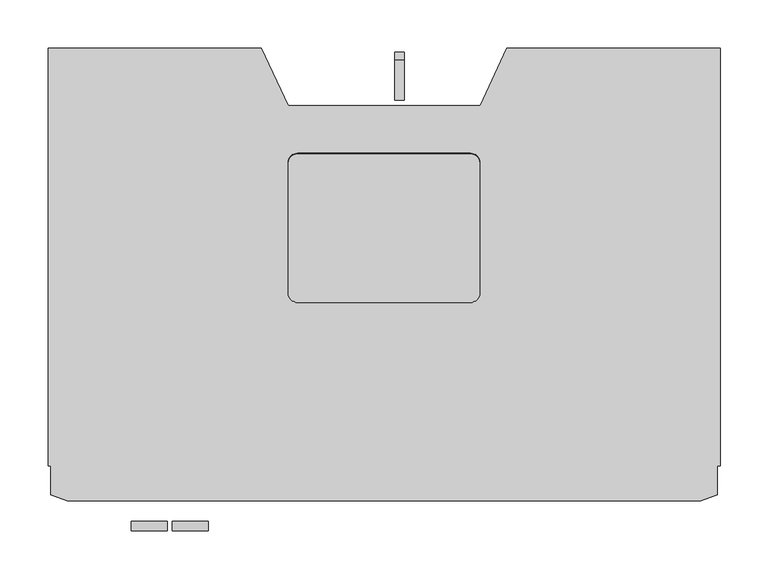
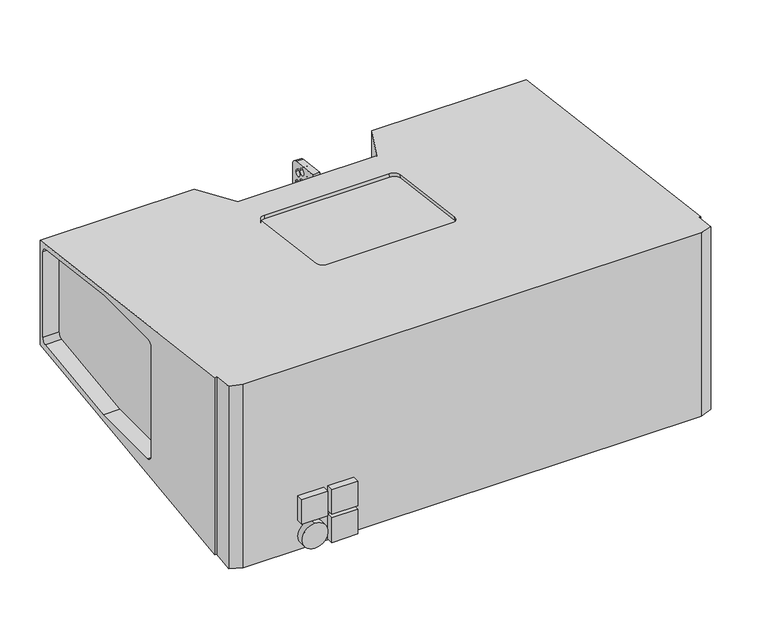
"""IFC4 building model written with IfcOpenShell, lengths in millimetres: proxy geometry, d&b SL-Series XSLi : XSLi12."""

from ifc_helpers import new_model, si_unit, point, frame, frame_2d, origin, place, context, project, spatial, polyline, circle_curve, trimmed, segment, composite_curve, outline, extrude, source, transform, mapped, element, save
from ifc_brep_helpers import plane_surface, revolved_surface, advanced_brep


def communication_devices_117acdfe(model_context):
    return source(origin(), model_context, "Body", "SolidModel", [
        advanced_brep(
        [(170.2405547, -330.1244027, 146.1842209), (170.2405547, -330.1244027, -133.052445), (829.7594453, -330.1244027, -133.052445), (829.7594453, -330.1244027, 146.1842209), (153.0, -323.849354, -132.2541577), (153.0, -323.849354, 145.3859339), (153.0, -294.0371274, 141.5933401), (153.0, -294.0371274, -128.4615623), (847.0, -323.849354, -132.2541577), (847.0, -323.849354, 145.3859339), (847.0, -294.0371274, -128.4615623), (847.0, -294.0371274, 141.5933401), (850.0, -294.0371274, 141.5933401), (850.0, 141.8755973, 86.1382428), (627.9784595, 141.8755973, 86.1382428), (600.0, 81.8755973, 93.7712061), (400.0, 81.8755973, 93.7712061), (372.0215405, 141.8755973, 86.1382428), (150.0, 141.8755973, 86.1382428), (150.0, -294.0371274, 141.5933401), (599.8603516, -113.5250804, 118.6293095), (589.8603516, -123.4451299, 119.8912991), (410.1396484, -123.4451299, 119.8912991), (400.1396484, -113.5250804, 118.6293095), (400.1396484, 22.2372063, 101.3581669), (410.1396484, 32.1572558, 100.0961774), (589.8603516, 32.1572558, 100.0961774), (599.8603516, 22.2372063, 101.3581669), (150.0, -294.0371274, -128.4615623), (150.0, 141.8755973, -73.0064423), (188.4702084, 141.8755973, -73.0064423), (184.5040319, 103.3755973, -77.9042624), (348.3071546, 103.3755973, -77.9042624), (348.1361189, 141.8755973, -73.0064423), (372.0215405, 141.8755973, -73.0064423), (400.0, 81.8755973, -80.6394088), (600.0, 81.8755973, -80.6394088), (627.9784595, 141.8755973, -73.0064423), (651.8638811, 141.8755973, -73.0064423), (651.6928454, 103.3755973, -77.9042624), (815.4959681, 103.3755973, -77.9042624), (811.5297916, 141.8755973, -73.0064423), (850.0, 141.8755973, -73.0064423), (850.0, -294.0371274, -128.4615623), (797.6572273, 141.8755973, -55.8752521), (782.1143081, 141.8755973, -48.46166), (662.3778915, 141.8755973, -48.46166), (652.3839833, 141.8755973, -58.112665), (787.6572273, 141.8755973, -15.0), (797.6572273, 141.8755973, -5.0), (797.6572273, 141.8755973, 40.0), (787.6572273, 141.8755973, 50.0), (670.0, 141.8755973, 50.0), (660.0, 141.8755973, 40.0), (660.0, 141.8755973, -5.0), (670.0, 141.8755973, -15.0), (347.6160167, 141.8755973, -58.112665), (337.6221085, 141.8755973, -48.46166), (217.8856919, 141.8755973, -48.46166), (202.3427727, 141.8755973, -55.8752521), (202.3427727, 141.8755973, 40.0), (202.3427727, 141.8755973, -5.0), (212.3427727, 141.8755973, -15.0), (330.0, 141.8755973, -15.0), (340.0, 141.8755973, -5.0), (340.0, 141.8755973, 40.0), (330.0, 141.8755973, 50.0), (212.3427727, 141.8755973, 50.0), (826.4019238, -16.422895, 99.0485291), (826.4019238, -126.8744027, 99.0485291), (826.4019238, -134.3744027, 91.5485291), (826.4019238, -134.3744027, -75.4514709), (826.4019238, -126.8744027, -82.9514709), (826.4019238, -16.4238546, -82.9514709), (826.4019238, 128.1220886, -64.5629235), (826.4019238, 134.6755973, -57.1228863), (826.4019238, 134.6755973, 73.2200667), (826.4019238, 128.1220886, 80.6601039), (850.0, -16.422895, 99.0485291), (850.0, 128.1220886, 80.6601039), (850.0, 134.6755973, 73.2200667), (850.0, 134.6755973, -57.1228863), (850.0, 128.1220886, -64.5629235), (850.0, -16.4238546, -82.9514709), (850.0, -126.8744027, -82.9514709), (850.0, -134.3744027, -75.4514709), (850.0, -134.3744027, 91.5485291), (850.0, -126.8744027, 99.0485291), (173.5980762, -126.8744027, 99.0485291), (173.5980762, -16.422895, 99.0485291), (173.5980762, 128.1220886, 80.6601039), (173.5980762, 134.6755973, 73.2200667), (173.5980762, 134.6755973, -57.1228863), (173.5980762, 128.1220886, -64.5629235), (173.5980762, -16.4238546, -82.9514709), (173.5980762, -126.8744027, -82.9514709), (173.5980762, -134.3744027, -75.4514709), (173.5980762, -134.3744027, 91.5485291), (150.0, -16.422895, 99.0485291), (150.0, -126.8744027, 99.0485291), (150.0, -134.3744027, 91.5485291), (150.0, -134.3744027, -75.4514709), (150.0, -126.8744027, -82.9514709), (150.0, -16.4238546, -82.9514709), (150.0, 128.1220886, -64.5629235), (150.0, 134.6755973, -57.1228863), (150.0, 134.6755973, 73.2200667), (150.0, 128.1220886, 80.6601039), (337.6221085, 103.3755973, -48.46166), (347.6160167, 103.3755973, -58.112665), (202.3427727, 103.3755973, -55.8752521), (217.8856919, 103.3755973, -48.46166), (662.3778915, 103.3755973, -48.46166), (782.1143081, 103.3755973, -48.46166), (797.6572273, 103.3755973, -55.8752521), (652.3839833, 103.3755973, -58.112665), (589.8603516, -124.0761247, 114.9312743), (599.8603516, -114.1560752, 113.6692848), (599.8603516, 21.6062115, 96.3981422), (589.8603516, 31.526261, 95.1361526), (410.1396484, 31.526261, 95.1361526), (400.1396484, 21.6062115, 96.3981422), (400.1396484, -114.1560752, 113.6692848), (410.1396484, -124.0761247, 114.9312743), (797.6572273, 136.8755973, -5.0), (787.6572273, 136.8755973, -15.0), (670.0, 136.8755973, -15.0), (660.0, 136.8755973, -5.0), (660.0, 136.8755973, 40.0), (670.0, 136.8755973, 50.0), (787.6572273, 136.8755973, 50.0), (797.6572273, 136.8755973, 40.0), (202.3427727, 136.8755973, -5.0), (202.3427727, 136.8755973, 40.0), (212.3427727, 136.8755973, 50.0), (330.0, 136.8755973, 50.0), (340.0, 136.8755973, 40.0), (340.0, 136.8755973, -5.0), (330.0, 136.8755973, -15.0), (212.3427727, 136.8755973, -15.0)],
        [
            (0, 1),
            (1, 2),
            (2, 3),
            (3, 0),
            (4, 5),
            (5, 6),
            (6, 7),
            (7, 4),
            (0, 5),
            (4, 1),
            (2, 8),
            (8, 9),
            (9, 3),
            (8, 10),
            (10, 11),
            (11, 9),
            (11, 12),
            (12, 13),
            (13, 14),
            (14, 15),
            (15, 16),
            (16, 17),
            (17, 18),
            (18, 19),
            (19, 6),
            (20, 21, circle_curve(frame((589.8603516, -113.5250804, 118.6293095), z_axis=(0.0, -0.12619895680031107, -0.9920049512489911), x_axis=(0.0, 0.9920049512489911, -0.12619895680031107)), 10.0)),
            (21, 22),
            (22, 23, circle_curve(frame((410.1396484, -113.5250804, 118.6293095), z_axis=(0.0, -0.12619895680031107, -0.9920049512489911), x_axis=(0.0, 0.9920049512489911, -0.12619895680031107)), 10.0)),
            (23, 24),
            (24, 25, circle_curve(frame((410.1396484, 22.2372063, 101.3581669), z_axis=(0.0, -0.12619895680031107, -0.9920049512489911), x_axis=(0.0, 0.9920049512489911, -0.12619895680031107)), 10.0)),
            (25, 26),
            (26, 27, circle_curve(frame((589.8603516, 22.2372063, 101.3581669), z_axis=(0.0, -0.12619895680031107, -0.9920049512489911), x_axis=(0.0, 0.9920049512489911, -0.12619895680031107)), 10.0)),
            (27, 20),
            (7, 28),
            (28, 29),
            (29, 30),
            (30, 31),
            (31, 32),
            (32, 33),
            (33, 34),
            (34, 35),
            (35, 36),
            (36, 37),
            (37, 38),
            (38, 39),
            (39, 40),
            (40, 41),
            (41, 42),
            (42, 43),
            (43, 10),
            (37, 14),
            (13, 42),
            (41, 44),
            (44, 45, circle_curve(frame((782.1143081, 141.8755973, -68.46166), z_axis=(0.0, -1.0, 0.0), x_axis=(-1.0, 0.0, 0.0)), 20.0)),
            (45, 46),
            (46, 47, circle_curve(frame((662.3778915, 141.8755973, -58.46166), z_axis=(0.0, -1.0, 0.0), x_axis=(-1.0, 0.0, 0.0)), 10.0)),
            (47, 38),
            (48, 49, circle_curve(frame((787.6572273, 141.8755973, -5.0), z_axis=(0.0, -1.0, 0.0), x_axis=(0.0, 0.0, 1.0)), 10.0)),
            (49, 50),
            (50, 51, circle_curve(frame((787.6572273, 141.8755973, 40.0), z_axis=(0.0, -1.0, 0.0), x_axis=(0.0, 0.0, 1.0)), 10.0)),
            (51, 52),
            (52, 53, circle_curve(frame((670.0, 141.8755973, 40.0), z_axis=(0.0, -1.0, 0.0), x_axis=(0.0, 0.0, 1.0)), 10.0)),
            (53, 54),
            (54, 55, circle_curve(frame((670.0, 141.8755973, -5.0), z_axis=(0.0, -1.0, 0.0), x_axis=(0.0, 0.0, 1.0)), 10.0)),
            (55, 48),
            (17, 34),
            (33, 56),
            (56, 57, circle_curve(frame((337.6221085, 141.8755973, -58.46166), z_axis=(0.0, -1.0, 0.0), x_axis=(-1.0, 0.0, 0.0)), 10.0)),
            (57, 58),
            (58, 59, circle_curve(frame((217.8856919, 141.8755973, -68.46166), z_axis=(0.0, -1.0, 0.0), x_axis=(-1.0, 0.0, 0.0)), 20.0)),
            (59, 30),
            (29, 18),
            (60, 61),
            (61, 62, circle_curve(frame((212.3427727, 141.8755973, -5.0), z_axis=(0.0, -1.0, 0.0), x_axis=(0.0, 0.0, 1.0)), 10.0)),
            (62, 63),
            (63, 64, circle_curve(frame((330.0, 141.8755973, -5.0), z_axis=(0.0, -1.0, 0.0), x_axis=(0.0, 0.0, 1.0)), 10.0)),
            (64, 65),
            (65, 66, circle_curve(frame((330.0, 141.8755973, 40.0), z_axis=(0.0, -1.0, 0.0), x_axis=(0.0, 0.0, 1.0)), 10.0)),
            (66, 67),
            (67, 60, circle_curve(frame((212.3427727, 141.8755973, 40.0), z_axis=(0.0, -1.0, 0.0), x_axis=(0.0, 0.0, 1.0)), 10.0)),
            (68, 69),
            (69, 70, circle_curve(frame((826.4019238, -126.8744027, 91.5485291), z_axis=(1.0, 0.0, 0.0), x_axis=(0.0, 1.0, 0.0)), 7.5)),
            (70, 71),
            (71, 72, circle_curve(frame((826.4019238, -126.8744027, -75.4514709), z_axis=(1.0, 0.0, 0.0), x_axis=(0.0, 1.0, 0.0)), 7.5)),
            (72, 73),
            (73, 74),
            (74, 75, circle_curve(frame((826.4019238, 127.1755973, -57.1228863), z_axis=(1.0, 0.0, 0.0), x_axis=(0.0, 1.0, 0.0)), 7.5)),
            (75, 76),
            (76, 77, circle_curve(frame((826.4019238, 127.1755973, 73.2200667), z_axis=(1.0, 0.0, 0.0), x_axis=(0.0, 1.0, 0.0)), 7.5)),
            (77, 68),
            (35, 16),
            (15, 36),
            (12, 43),
            (78, 79),
            (79, 80, circle_curve(frame((850.0, 127.1755973, 73.2200667), z_axis=(-1.0, 0.0, 0.0), x_axis=(0.0, 1.0, 0.0)), 7.5)),
            (80, 81),
            (81, 82, circle_curve(frame((850.0, 127.1755973, -57.1228863), z_axis=(-1.0, 0.0, 0.0), x_axis=(0.0, 1.0, 0.0)), 7.5)),
            (82, 83),
            (83, 84),
            (84, 85, circle_curve(frame((850.0, -126.8744027, -75.4514709), z_axis=(-1.0, 0.0, 0.0), x_axis=(0.0, 1.0, 0.0)), 7.5)),
            (85, 86),
            (86, 87, circle_curve(frame((850.0, -126.8744027, 91.5485291), z_axis=(-1.0, 0.0, 0.0), x_axis=(0.0, 1.0, 0.0)), 7.5)),
            (87, 78),
            (87, 69),
            (68, 78),
            (86, 70),
            (85, 71),
            (84, 72),
            (83, 73),
            (82, 74),
            (80, 76),
            (75, 81),
            (77, 79),
            (88, 89),
            (89, 90),
            (90, 91, circle_curve(frame((173.5980762, 127.1755973, 73.2200667), z_axis=(-1.0, 0.0, 0.0), x_axis=(0.0, 1.0, 0.0)), 7.5)),
            (91, 92),
            (92, 93, circle_curve(frame((173.5980762, 127.1755973, -57.1228863), z_axis=(-1.0, 0.0, 0.0), x_axis=(0.0, 1.0, 0.0)), 7.5)),
            (93, 94),
            (94, 95),
            (95, 96, circle_curve(frame((173.5980762, -126.8744027, -75.4514709), z_axis=(-1.0, 0.0, 0.0), x_axis=(0.0, 1.0, 0.0)), 7.5)),
            (96, 97),
            (97, 88, circle_curve(frame((173.5980762, -126.8744027, 91.5485291), z_axis=(-1.0, 0.0, 0.0), x_axis=(0.0, 1.0, 0.0)), 7.5)),
            (28, 19),
            (98, 99),
            (99, 100, circle_curve(frame((150.0, -126.8744027, 91.5485291), z_axis=(1.0, 0.0, 0.0), x_axis=(0.0, 1.0, 0.0)), 7.5)),
            (100, 101),
            (101, 102, circle_curve(frame((150.0, -126.8744027, -75.4514709), z_axis=(1.0, 0.0, 0.0), x_axis=(0.0, 1.0, 0.0)), 7.5)),
            (102, 103),
            (103, 104),
            (104, 105, circle_curve(frame((150.0, 127.1755973, -57.1228863), z_axis=(1.0, 0.0, 0.0), x_axis=(0.0, 1.0, 0.0)), 7.5)),
            (105, 106),
            (106, 107, circle_curve(frame((150.0, 127.1755973, 73.2200667), z_axis=(1.0, 0.0, 0.0), x_axis=(0.0, 1.0, 0.0)), 7.5)),
            (107, 98),
            (98, 89),
            (88, 99),
            (97, 100),
            (96, 101),
            (95, 102),
            (94, 103),
            (93, 104),
            (105, 92),
            (91, 106),
            (107, 90),
            (108, 109, circle_curve(frame((337.6221085, 103.3755973, -58.46166), z_axis=(0.0, 1.0, 0.0), x_axis=(-1.0, 0.0, 0.0)), 10.0)),
            (109, 32),
            (31, 110),
            (110, 111, circle_curve(frame((217.8856919, 103.3755973, -68.46166), z_axis=(0.0, 1.0, 0.0), x_axis=(-1.0, 0.0, 0.0)), 20.0)),
            (111, 108),
            (112, 113),
            (113, 114, circle_curve(frame((782.1143081, 103.3755973, -68.46166), z_axis=(0.0, 1.0, 0.0), x_axis=(-1.0, 0.0, 0.0)), 20.0)),
            (114, 40),
            (39, 115),
            (115, 112, circle_curve(frame((662.3778915, 103.3755973, -58.46166), z_axis=(0.0, 1.0, 0.0), x_axis=(-1.0, 0.0, 0.0)), 10.0)),
            (108, 57),
            (56, 109),
            (59, 110),
            (58, 111),
            (112, 46),
            (45, 113),
            (44, 114),
            (47, 115),
            (116, 117, circle_curve(frame((589.8603516, -114.1560752, 113.6692848), z_axis=(0.0, 0.12619895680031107, 0.9920049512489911), x_axis=(0.0, 0.9920049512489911, -0.12619895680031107)), 10.0)),
            (117, 118),
            (118, 119, circle_curve(frame((589.8603516, 21.6062115, 96.3981422), z_axis=(0.0, 0.12619895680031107, 0.9920049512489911), x_axis=(0.0, 0.9920049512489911, -0.12619895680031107)), 10.0)),
            (119, 120),
            (120, 121, circle_curve(frame((410.1396484, 21.6062115, 96.3981422), z_axis=(0.0, 0.12619895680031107, 0.9920049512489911), x_axis=(0.0, 0.9920049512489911, -0.12619895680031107)), 10.0)),
            (121, 122),
            (122, 123, circle_curve(frame((410.1396484, -114.1560752, 113.6692848), z_axis=(0.0, 0.12619895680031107, 0.9920049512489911), x_axis=(0.0, 0.9920049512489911, -0.12619895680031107)), 10.0)),
            (123, 116),
            (116, 21),
            (20, 117),
            (27, 118),
            (26, 119),
            (25, 120),
            (24, 121),
            (23, 122),
            (22, 123),
            (124, 125, circle_curve(frame((787.6572273, 136.8755973, -5.0), z_axis=(0.0, 1.0, 0.0), x_axis=(0.0, 0.0, 1.0)), 10.0)),
            (125, 126),
            (126, 127, circle_curve(frame((670.0, 136.8755973, -5.0), z_axis=(0.0, 1.0, 0.0), x_axis=(0.0, 0.0, 1.0)), 10.0)),
            (127, 128),
            (128, 129, circle_curve(frame((670.0, 136.8755973, 40.0), z_axis=(0.0, 1.0, 0.0), x_axis=(0.0, 0.0, 1.0)), 10.0)),
            (129, 130),
            (130, 131, circle_curve(frame((787.6572273, 136.8755973, 40.0), z_axis=(0.0, 1.0, 0.0), x_axis=(0.0, 0.0, 1.0)), 10.0)),
            (131, 124),
            (132, 133),
            (133, 134, circle_curve(frame((212.3427727, 136.8755973, 40.0), z_axis=(0.0, 1.0, 0.0), x_axis=(0.0, 0.0, 1.0)), 10.0)),
            (134, 135),
            (135, 136, circle_curve(frame((330.0, 136.8755973, 40.0), z_axis=(0.0, 1.0, 0.0), x_axis=(0.0, 0.0, 1.0)), 10.0)),
            (136, 137),
            (137, 138, circle_curve(frame((330.0, 136.8755973, -5.0), z_axis=(0.0, 1.0, 0.0), x_axis=(0.0, 0.0, 1.0)), 10.0)),
            (138, 139),
            (139, 132, circle_curve(frame((212.3427727, 136.8755973, -5.0), z_axis=(0.0, 1.0, 0.0), x_axis=(0.0, 0.0, 1.0)), 10.0)),
            (124, 49),
            (48, 125),
            (55, 126),
            (54, 127),
            (53, 128),
            (52, 129),
            (51, 130),
            (50, 131),
            (132, 61),
            (60, 133),
            (67, 134),
            (66, 135),
            (65, 136),
            (64, 137),
            (63, 138),
            (62, 139),
        ],
        [
            plane_surface(frame((170.2405547, -330.1244027, 200.0), z_axis=(0.0, -1.0, 0.0), x_axis=(0.0, 0.0, -1.0))),
            plane_surface(frame((153.0, -294.0371274, 200.0), z_axis=(-1.0, 0.0, 0.0), x_axis=(0.0, 0.0, -1.0))),
            plane_surface(frame((153.0, -323.849354, 200.0), z_axis=(-0.34202014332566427, -0.93969262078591, 0.0), x_axis=(0.0, 0.0, -1.0))),
            plane_surface(frame((829.7594453, -330.1244027, 200.0), z_axis=(0.3420201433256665, -0.9396926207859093, 0.0), x_axis=(0.0, 0.0, -1.0))),
            plane_surface(frame((847.0, -323.849354, 200.0), z_axis=(1.0, 0.0, 0.0), x_axis=(0.0, 0.0, -1.0))),
            plane_surface(frame((900.0, -397.1791753, 154.7146646), z_axis=(0.0, 0.12619895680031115, 0.9920049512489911), x_axis=(-1.0, 0.0, 0.0))),
            plane_surface(frame((900.0, -259.9156739, -124.1207638), z_axis=(0.0, 0.12619900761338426, -0.9920049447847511), x_axis=(-1.0, 0.0, 0.0))),
            plane_surface(frame((780.0, 141.8755973, -73.0064423), z_axis=(0.0, 1.0, 0.0), x_axis=(-1.0, 0.0, 0.0))),
            plane_surface(frame((826.4019238, -294.0371274, 191.9850007), z_axis=(1.0, 0.0, 0.0), x_axis=(0.0, 0.0, -1.0))),
            plane_surface(frame((400.0, 81.8755973, 250.0), z_axis=(0.0, 1.0, 0.0), x_axis=(0.0, 0.0, -1.0))),
            plane_surface(frame((600.0, 81.8755973, 250.0), z_axis=(-0.9063077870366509, 0.42261826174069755, 0.0), x_axis=(0.0, 0.0, -1.0))),
            plane_surface(frame((323.4204404, 246.1009928, 250.0), z_axis=(0.906307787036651, 0.4226182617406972, 0.0), x_axis=(0.0, 0.0, -1.0))),
            plane_surface(frame((850.0, -294.0371274, 191.9850007), z_axis=(1.0, 0.0, 0.0), x_axis=(0.0, 0.0, -1.0))),
            plane_surface(frame((826.4019238, -294.0371274, -128.4615623), z_axis=(0.0, -1.0, 0.0), x_axis=(1.0, 0.0, 0.0))),
            plane_surface(frame((826.4019238, -16.422895, 99.0485291), z_axis=(0.0, 0.0, -1.0), x_axis=(1.0, 0.0, 0.0))),
            revolved_surface(polyline([(850.0, -119.3744027, 91.5485291), (826.4019238, -119.3744027, 91.5485291)]), (500.0, -126.8744027, 91.5485291), (1.0, 0.0, 0.0)),
            plane_surface(frame((826.4019238, -134.3744027, 91.5485291), z_axis=(0.0, 1.0, 0.0), x_axis=(1.0, 0.0, 0.0))),
            revolved_surface(polyline([(850.0, -119.3744027, -75.4514709), (826.4019238, -119.3744027, -75.4514709)]), (500.0, -126.8744027, -75.4514709), (1.0, 0.0, 0.0)),
            plane_surface(frame((826.4019238, -126.8744027, -82.9514709), z_axis=(0.0, 0.0, 1.0), x_axis=(1.0, 0.0, 0.0))),
            plane_surface(frame((826.4019238, -16.4238546, -82.9514709), z_axis=(0.0, -0.12619883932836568, 0.9920049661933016), x_axis=(1.0, 0.0, 0.0))),
            plane_surface(frame((826.4019238, 134.6755973, -57.1228863), z_axis=(0.0, -1.0, 0.0), x_axis=(1.0, 0.0, 0.0))),
            plane_surface(frame((826.4019238, 128.1220886, 80.6601039), z_axis=(0.0, -0.1261988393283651, -0.9920049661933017), x_axis=(1.0, 0.0, 0.0))),
            revolved_surface(polyline([(850.0, 134.6755973, -57.1228863), (826.4019238, 134.6755973, -57.1228863)]), (500.0, 127.1755973, -57.1228863), (1.0, 0.0, 0.0)),
            revolved_surface(polyline([(850.0, 134.6755973, 73.2200667), (826.4019238, 134.6755973, 73.2200667)]), (500.0, 127.1755973, 73.2200667), (1.0, 0.0, 0.0)),
            plane_surface(frame((173.5980762, -540.9167318, -159.8686246), z_axis=(-1.0, 0.0, 0.0), x_axis=(0.0, -0.9920049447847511, -0.1261990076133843))),
            plane_surface(frame((150.0, -540.9167318, -159.8686246), z_axis=(-1.0000000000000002, 0.0, 0.0), x_axis=(0.0, -0.9920049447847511, -0.1261990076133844))),
            plane_surface(frame((173.5980762, -294.0371274, 141.5933401), z_axis=(0.0, -1.0, 0.0), x_axis=(-1.0, 0.0, 0.0))),
            plane_surface(frame((173.5980762, -126.8744027, 99.0485291), z_axis=(0.0, 0.0, -1.0), x_axis=(-1.0, 0.0, 0.0))),
            revolved_surface(polyline([(150.0, -119.3744027, 91.5485291), (173.59807620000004, -119.3744027, 91.5485291)]), (500.0, -126.8744027, 91.5485291), (-1.0, 0.0, 0.0)),
            plane_surface(frame((173.5980762, -134.3744027, -75.4514709), z_axis=(0.0, 1.0, 0.0), x_axis=(-1.0, 0.0, 0.0))),
            revolved_surface(polyline([(150.0, -119.3744027, -75.4514709), (173.59807620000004, -119.3744027, -75.4514709)]), (500.0, -126.8744027, -75.4514709), (-1.0, 0.0, 0.0)),
            plane_surface(frame((173.5980762, -16.4238546, -82.9514709), z_axis=(0.0, 0.0, 1.0), x_axis=(-1.0, 0.0, 0.0))),
            plane_surface(frame((173.5980762, 128.1220886, -64.5629235), z_axis=(0.0, -0.1261988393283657, 0.9920049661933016), x_axis=(-1.0, 0.0, 0.0))),
            plane_surface(frame((173.5980762, 134.6755973, 73.2200667), z_axis=(0.0, -1.0, 0.0), x_axis=(-1.0, 0.0, 0.0))),
            plane_surface(frame((173.5980762, -16.422895, 99.0485291), z_axis=(0.0, -0.1261988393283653, -0.9920049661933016), x_axis=(-1.0, 0.0, 0.0))),
            revolved_surface(polyline([(150.0, 134.6755973, 73.2200667), (173.59807620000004, 134.6755973, 73.2200667)]), (500.0, 127.1755973, 73.2200667), (-1.0, 0.0, 0.0)),
            revolved_surface(polyline([(150.0, 134.6755973, -57.1228863), (173.59807620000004, 134.6755973, -57.1228863)]), (500.0, 127.1755973, -57.1228863), (-1.0, 0.0, 0.0)),
            plane_surface(frame((327.6221085, 103.3755973, -58.46166), z_axis=(0.0, 1.0, 0.0), x_axis=(0.0, 0.0, -1.0))),
            revolved_surface(polyline([(327.6221085, 141.8755973, -58.46166), (327.6221085, 103.3755973, -58.46166)]), (337.6221085, 103.3755973, -58.46166), (0.0, 1.0, 0.0)),
            plane_surface(frame((347.6160167, 141.8755973, -58.112665), z_axis=(-0.9993908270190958, 0.0, -0.03489949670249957), x_axis=(0.0, -1.0, 0.0))),
            plane_surface(frame((179.1870516, 141.8755973, -84.4701863), z_axis=(0.7771459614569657, 0.0, -0.629320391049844), x_axis=(0.0, -1.0, 0.0))),
            revolved_surface(polyline([(197.8856919, 141.8755973, -68.46166), (197.8856919, 103.3755973, -68.46166)]), (217.8856919, 103.3755973, -68.46166), (0.0, 1.0, 0.0)),
            plane_surface(frame((217.8856919, 141.8755973, -48.46166), z_axis=(0.0, 0.0, -1.0), x_axis=(0.0, -1.0, 0.0))),
            plane_surface(frame((662.3778915, 141.8755973, -48.46166), z_axis=(0.0, 0.0, -1.0), x_axis=(0.0, -1.0, 0.0))),
            revolved_surface(polyline([(762.1143081, 141.8755973, -68.46166), (762.1143081, 103.3755973, -68.46166)]), (782.1143081, 150.1255973, -68.46166), (0.0, 1.0, 0.0)),
            plane_surface(frame((797.6572273, 141.8755973, -55.8752521), z_axis=(-0.7771459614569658, 0.0, -0.6293203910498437), x_axis=(0.0, -1.0, 0.0))),
            plane_surface(frame((651.4635583, 141.8755973, -84.4701863), z_axis=(0.9993908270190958, 0.0, -0.034899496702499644), x_axis=(0.0, -1.0, 0.0))),
            revolved_surface(polyline([(652.3778915, 141.8755973, -58.46166), (652.3778915, 103.3755973, -58.46166)]), (662.3778915, 150.1255973, -58.46166), (0.0, 1.0, 0.0)),
            plane_surface(frame((589.8603516, -104.2360257, 112.4072952), z_axis=(0.0, 0.12619895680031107, 0.9920049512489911), x_axis=(1.0, 0.0, 0.0))),
            revolved_surface(polyline([(589.8603516, -103.60503090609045, 117.3673199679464), (589.8603516, -104.23602569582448, 112.40729516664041)]), (589.8603516, -114.1560752, 113.6692848), (0.0, 0.12619895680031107, 0.9920049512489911)),
            plane_surface(frame((599.8603516, -113.5250804, 118.6293095), z_axis=(-1.0, 0.0, 0.0), x_axis=(0.0, -0.12619895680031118, -0.9920049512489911))),
            revolved_surface(polyline([(589.8603516, 32.15725579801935, 100.09617740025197), (589.8603516, 31.526261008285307, 95.13615259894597)]), (589.8603516, 21.6062115, 96.3981422), (0.0, 0.12619895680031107, 0.9920049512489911)),
            plane_surface(frame((589.8603516, 32.1572558, 100.0961774), z_axis=(0.0, -0.9920049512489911, 0.12619895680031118), x_axis=(0.0, -0.12619895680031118, -0.9920049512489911))),
            revolved_surface(polyline([(410.1396484, 32.15725579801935, 100.09617740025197), (410.1396484, 31.526261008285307, 95.13615259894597)]), (410.1396484, 21.6062115, 96.3981422), (0.0, 0.12619895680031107, 0.9920049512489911)),
            plane_surface(frame((400.1396484, 22.2372063, 101.3581669), z_axis=(1.0, 0.0, 0.0), x_axis=(0.0, -0.12619895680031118, -0.9920049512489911))),
            revolved_surface(polyline([(410.1396484, -103.60503090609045, 117.3673199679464), (410.1396484, -104.23602569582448, 112.40729516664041)]), (410.1396484, -114.1560752, 113.6692848), (0.0, 0.12619895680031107, 0.9920049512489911)),
            plane_surface(frame((410.1396484, -123.4451299, 119.8912991), z_axis=(0.0, 0.9920049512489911, -0.12619895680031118), x_axis=(0.0, -0.12619895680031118, -0.9920049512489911))),
            plane_surface(frame((787.6572273, 136.8755973, 5.0), z_axis=(0.0, 1.0, 0.0), x_axis=(-1.0, 0.0, 0.0))),
            revolved_surface(polyline([(787.6572273, 141.8755973, 5.0), (787.6572273, 136.8755973, 5.0)]), (787.6572273, 136.8755973, -5.0), (0.0, 1.0, 0.0)),
            plane_surface(frame((787.6572273, 141.8755973, -15.0), z_axis=(0.0, 0.0, 1.0), x_axis=(0.0, -1.0, 0.0))),
            revolved_surface(polyline([(670.0, 141.8755973, 5.0), (670.0, 136.8755973, 5.0)]), (670.0, 136.8755973, -5.0), (0.0, 1.0, 0.0)),
            plane_surface(frame((660.0, 141.8755973, -5.0), z_axis=(1.0, 0.0, 0.0), x_axis=(0.0, -1.0, 0.0))),
            revolved_surface(polyline([(670.0, 141.8755973, 50.0), (670.0, 136.8755973, 50.0)]), (670.0, 136.8755973, 40.0), (0.0, 1.0, 0.0)),
            plane_surface(frame((670.0, 141.8755973, 50.0), z_axis=(0.0, 0.0, -1.0), x_axis=(0.0, -1.0, 0.0))),
            revolved_surface(polyline([(787.6572273, 141.8755973, 50.0), (787.6572273, 136.8755973, 50.0)]), (787.6572273, 136.8755973, 40.0), (0.0, 1.0, 0.0)),
            plane_surface(frame((797.6572273, 141.8755973, 40.0), z_axis=(-1.0, 0.0, 0.0), x_axis=(0.0, -1.0, 0.0))),
            plane_surface(frame((202.3427727, 141.8755973, -5.0), z_axis=(1.0, 0.0, 0.0), x_axis=(0.0, -1.0, 0.0))),
            revolved_surface(polyline([(212.3427727, 141.8755973, 50.0), (212.3427727, 136.8755973, 50.0)]), (212.3427727, 141.8755973, 40.0), (0.0, 1.0, 0.0)),
            plane_surface(frame((212.3427727, 141.8755973, 50.0), z_axis=(0.0, 0.0, -1.0), x_axis=(0.0, -1.0, 0.0))),
            revolved_surface(polyline([(330.0, 141.8755973, 50.0), (330.0, 136.8755973, 50.0)]), (330.0, 141.8755973, 40.0), (0.0, 1.0, 0.0)),
            plane_surface(frame((340.0, 141.8755973, 40.0), z_axis=(-1.0, 0.0, 0.0), x_axis=(0.0, -1.0, 0.0))),
            revolved_surface(polyline([(330.0, 141.8755973, 5.0), (330.0, 136.8755973, 5.0)]), (330.0, 141.8755973, -5.0), (0.0, 1.0, 0.0)),
            plane_surface(frame((330.0, 141.8755973, -15.0), z_axis=(0.0, 0.0, 1.0), x_axis=(0.0, -1.0, 0.0))),
            revolved_surface(polyline([(212.3427727, 141.8755973, 5.0), (212.3427727, 136.8755973, 5.0)]), (212.3427727, 141.8755973, -5.0), (0.0, 1.0, 0.0)),
        ],
        [
            (0, [[1, 2, 3, 4]]),
            (1, [[5, 6, 7, 8]]),
            (2, [[-1, 9, -5, 10]]),
            (3, [[-3, 11, 12, 13]]),
            (4, [[-12, 14, 15, 16]]),
            (5, [[-4, -13, -16, 17, 18, 19, 20, 21, 22, 23, 24, 25, -6, -9], [26, 27, 28, 29, 30, 31, 32, 33]]),
            (6, [[-2, -10, -8, 34, 35, 36, 37, 38, 39, 40, 41, 42, 43, 44, 45, 46, 47, 48, 49, 50, -14, -11]]),
            (7, [[51, -19, 52, -48, 53, 54, 55, 56, 57, -44], [58, 59, 60, 61, 62, 63, 64, 65]]),
            (7, [[66, -40, 67, 68, 69, 70, 71, -36, 72, -23], [73, 74, 75, 76, 77, 78, 79, 80]]),
            (8, [[81, 82, 83, 84, 85, 86, 87, 88, 89, 90]]),
            (9, [[91, -21, 92, -42]]),
            (10, [[-92, -20, -51, -43]]),
            (11, [[-91, -41, -66, -22]]),
            (12, [[-49, -52, -18, 93], [94, 95, 96, 97, 98, 99, 100, 101, 102, 103]]),
            (13, [[-93, -17, -15, -50]]),
            (14, [[-103, 104, -81, 105]]),
            (15, [[-102, 106, -82, -104]]),
            (16, [[-101, 107, -83, -106]]),
            (17, [[-100, 108, -84, -107]]),
            (18, [[-99, 109, -85, -108]]),
            (19, [[-98, 110, -86, -109]]),
            (20, [[-96, 111, -88, 112]]),
            (21, [[-94, -105, -90, 113]]),
            (22, [[-97, -112, -87, -110]]),
            (23, [[-95, -113, -89, -111]]),
            (24, [[114, 115, 116, 117, 118, 119, 120, 121, 122, 123]]),
            (25, [[124, -24, -72, -35], [125, 126, 127, 128, 129, 130, 131, 132, 133, 134]]),
            (26, [[-124, -34, -7, -25]]),
            (27, [[-125, 135, -114, 136]]),
            (28, [[-126, -136, -123, 137]]),
            (29, [[-127, -137, -122, 138]]),
            (30, [[-128, -138, -121, 139]]),
            (31, [[-129, -139, -120, 140]]),
            (32, [[-130, -140, -119, 141]]),
            (33, [[-132, 142, -117, 143]]),
            (34, [[-134, 144, -115, -135]]),
            (35, [[-133, -143, -116, -144]]),
            (36, [[-131, -141, -118, -142]]),
            (37, [[145, 146, -38, 147, 148, 149]]),
            (37, [[150, 151, 152, -46, 153, 154]]),
            (38, [[-145, 155, -68, 156]]),
            (39, [[-156, -67, -39, -146]]),
            (40, [[157, -147, -37, -71]]),
            (41, [[-148, -157, -70, 158]]),
            (42, [[-149, -158, -69, -155]]),
            (43, [[-150, 159, -55, 160]]),
            (44, [[-151, -160, -54, 161]]),
            (45, [[-161, -53, -47, -152]]),
            (46, [[162, -153, -45, -57]]),
            (47, [[-154, -162, -56, -159]]),
            (48, [[163, 164, 165, 166, 167, 168, 169, 170]]),
            (49, [[-163, 171, -26, 172]]),
            (50, [[-164, -172, -33, 173]]),
            (51, [[-165, -173, -32, 174]]),
            (52, [[-166, -174, -31, 175]]),
            (53, [[-167, -175, -30, 176]]),
            (54, [[-168, -176, -29, 177]]),
            (55, [[-169, -177, -28, 178]]),
            (56, [[-170, -178, -27, -171]]),
            (57, [[179, 180, 181, 182, 183, 184, 185, 186]]),
            (57, [[187, 188, 189, 190, 191, 192, 193, 194]]),
            (58, [[-179, 195, -58, 196]]),
            (59, [[-180, -196, -65, 197]]),
            (60, [[-181, -197, -64, 198]]),
            (61, [[-182, -198, -63, 199]]),
            (62, [[-183, -199, -62, 200]]),
            (63, [[-184, -200, -61, 201]]),
            (64, [[-185, -201, -60, 202]]),
            (65, [[-186, -202, -59, -195]]),
            (66, [[-187, 203, -73, 204]]),
            (67, [[-188, -204, -80, 205]]),
            (68, [[-189, -205, -79, 206]]),
            (69, [[-190, -206, -78, 207]]),
            (70, [[-191, -207, -77, 208]]),
            (71, [[-192, -208, -76, 209]]),
            (72, [[-193, -209, -75, 210]]),
            (73, [[-194, -210, -74, -203]]),
        ],
    ),
        extrude(outline(polyline([(236.4761951, -351.6244027), (273.9761951, -351.6244027), (273.9761951, -361.6244027), (236.4761951, -361.6244027), (236.4761951, -351.6244027)])), frame((0.0, 0.0, -71.0096005), z_axis=(0.0, 0.0, 1.0), x_axis=(1.0, 0.0, 0.0)), (0.0, 0.0, 1.0), 37.5),
        extrude(outline(polyline([(279.333338, -351.6244027), (316.833338, -351.6244027), (316.833338, -361.6244027), (279.333338, -361.6244027), (279.333338, -351.6244027)])), frame((0.0, 0.0, -71.0096005), z_axis=(0.0, 0.0, 1.0), x_axis=(1.0, 0.0, 0.0)), (0.0, 0.0, 1.0), 37.5),
        extrude(outline(polyline([(279.333338, -351.6244027), (316.833338, -351.6244027), (316.833338, -361.6244027), (279.333338, -361.6244027), (279.333338, -351.6244027)])), frame((0.0, 0.0, -113.8667433), z_axis=(0.0, 0.0, 1.0), x_axis=(1.0, 0.0, 0.0)), (0.0, 0.0, 1.0), 37.5),
        extrude(outline(composite_curve([segment(trimmed(circle_curve(frame_2d((-95.1167433, 255.2261951)), 18.75), [point((-76.3667433, 255.2261951))], [point((-113.8667433, 255.2261951))], False, "CARTESIAN"), True, "CONTINUOUS"), segment(trimmed(circle_curve(frame_2d((-95.1167433, 255.2261951)), 18.75), [point((-113.8667433, 255.2261951))], [point((-76.3667433, 255.2261951))], False, "CARTESIAN"), True, "CONTINUOUS")], self_intersect=False)), frame((0.0, -361.6244027, 0.0), z_axis=(0.0, 1.0, 0.0), x_axis=(0.0, 0.0, 1.0)), (0.0, 0.0, 1.0), 10.0),
        extrude(outline(composite_curve([segment(polyline([(87.3755973, 93.0715178), (128.8875869, 87.7905262)]), True, "CONTINUOUS"), segment(trimmed(circle_curve(frame_2d((127.6255973, 77.8704767)), 10.0), [point((128.8875869, 87.7905262))], [point((137.6255973, 77.8704767))], False, "CARTESIAN"), True, "CONTINUOUS"), segment(polyline([(137.6255973, 77.8704767), (137.6255973, -66.0341249)]), True, "CONTINUOUS"), segment(trimmed(circle_curve(frame_2d((127.6255973, -66.0341249)), 10.0), [point((137.6255973, -66.0341249))], [point((132.8764293, -74.5446339))], False, "CARTESIAN"), True, "CONTINUOUS"), segment(trimmed(circle_curve(frame_2d((115.0236005, -45.6089034)), 34.0), [point((132.8764293, -74.5446339))], [point((125.2407991, -78.0374225))], False, "CARTESIAN"), True, "CONTINUOUS"), segment(trimmed(circle_curve(frame_2d((101.2003317, -1.7350246)), 80.0), [point((125.2407991, -78.0374225))], [point((87.3755973, -80.5314504))], False, "CARTESIAN"), True, "CONTINUOUS"), segment(polyline([(87.3755973, -80.5314504), (87.3755973, 93.0715178)]), True, "CONTINUOUS")], self_intersect=False), holes=[composite_curve([segment(trimmed(circle_curve(frame_2d((114.3755973, 80.3658751)), 4.75), [point((109.6255973, 80.3658751))], [point((119.1255973, 80.3658751))], True, "CARTESIAN"), True, "CONTINUOUS"), segment(trimmed(circle_curve(frame_2d((114.3755973, 80.3658751)), 4.75), [point((119.1255973, 80.3658751))], [point((109.6255973, 80.3658751))], True, "CARTESIAN"), True, "CONTINUOUS")], self_intersect=False), composite_curve([segment(trimmed(circle_curve(frame_2d((124.4755973, 72.9758751)), 4.75), [point((119.7255973, 72.9758751))], [point((129.2255973, 72.9758751))], True, "CARTESIAN"), True, "CONTINUOUS"), segment(trimmed(circle_curve(frame_2d((124.4755973, 72.9758751)), 4.75), [point((129.2255973, 72.9758751))], [point((119.7255973, 72.9758751))], True, "CARTESIAN"), True, "CONTINUOUS")], self_intersect=False), composite_curve([segment(trimmed(circle_curve(frame_2d((114.3755973, 64.3358751)), 4.75), [point((109.6255973, 64.3358751))], [point((119.1255973, 64.3358751))], True, "CARTESIAN"), True, "CONTINUOUS"), segment(trimmed(circle_curve(frame_2d((114.3755973, 64.3358751)), 4.75), [point((119.1255973, 64.3358751))], [point((109.6255973, 64.3358751))], True, "CARTESIAN"), True, "CONTINUOUS")], self_intersect=False), composite_curve([segment(trimmed(circle_curve(frame_2d((99.3755973, 55.8658751)), 4.75), [point((94.6255973, 55.8658751))], [point((104.1255973, 55.8658751))], True, "CARTESIAN"), True, "CONTINUOUS"), segment(trimmed(circle_curve(frame_2d((99.3755973, 55.8658751)), 4.75), [point((104.1255973, 55.8658751))], [point((94.6255973, 55.8658751))], True, "CARTESIAN"), True, "CONTINUOUS")], self_intersect=False), composite_curve([segment(trimmed(circle_curve(frame_2d((125.2755973, 56.9358751)), 4.75), [point((120.5255973, 56.9358751))], [point((130.0255973, 56.9358751))], True, "CARTESIAN"), True, "CONTINUOUS"), segment(trimmed(circle_curve(frame_2d((125.2755973, 56.9358751)), 4.75), [point((130.0255973, 56.9358751))], [point((120.5255973, 56.9358751))], True, "CARTESIAN"), True, "CONTINUOUS")], self_intersect=False), composite_curve([segment(trimmed(circle_curve(frame_2d((114.3755973, 48.2858751)), 4.75), [point((109.6255973, 48.2858751))], [point((119.1255973, 48.2858751))], True, "CARTESIAN"), True, "CONTINUOUS"), segment(trimmed(circle_curve(frame_2d((114.3755973, 48.2858751)), 4.75), [point((119.1255973, 48.2858751))], [point((109.6255973, 48.2858751))], True, "CARTESIAN"), True, "CONTINUOUS")], self_intersect=False), composite_curve([segment(trimmed(circle_curve(frame_2d((102.7855973, 42.7858751)), 4.75), [point((98.0355973, 42.7858751))], [point((107.5355973, 42.7858751))], True, "CARTESIAN"), True, "CONTINUOUS"), segment(trimmed(circle_curve(frame_2d((102.7855973, 42.7858751)), 4.75), [point((107.5355973, 42.7858751))], [point((98.0355973, 42.7858751))], True, "CARTESIAN"), True, "CONTINUOUS")], self_intersect=False), composite_curve([segment(trimmed(circle_curve(frame_2d((103.2255973, 9.7958751)), 4.75), [point((98.4755973, 9.7958751))], [point((107.9755973, 9.7958751))], True, "CARTESIAN"), True, "CONTINUOUS"), segment(trimmed(circle_curve(frame_2d((103.2255973, 9.7958751)), 4.75), [point((107.9755973, 9.7958751))], [point((98.4755973, 9.7958751))], True, "CARTESIAN"), True, "CONTINUOUS")], self_intersect=False), composite_curve([segment(trimmed(circle_curve(frame_2d((102.9655973, 26.4158751)), 4.75), [point((98.2155973, 26.4158751))], [point((107.7155973, 26.4158751))], True, "CARTESIAN"), True, "CONTINUOUS"), segment(trimmed(circle_curve(frame_2d((102.9655973, 26.4158751)), 4.75), [point((107.7155973, 26.4158751))], [point((98.2155973, 26.4158751))], True, "CARTESIAN"), True, "CONTINUOUS")], self_intersect=False), composite_curve([segment(trimmed(circle_curve(frame_2d((114.3755973, 32.2258751)), 4.75), [point((109.6255973, 32.2258751))], [point((119.1255973, 32.2258751))], True, "CARTESIAN"), True, "CONTINUOUS"), segment(trimmed(circle_curve(frame_2d((114.3755973, 32.2258751)), 4.75), [point((119.1255973, 32.2258751))], [point((109.6255973, 32.2258751))], True, "CARTESIAN"), True, "CONTINUOUS")], self_intersect=False), composite_curve([segment(trimmed(circle_curve(frame_2d((125.6755973, 40.8658751)), 4.75), [point((120.9255973, 40.8658751))], [point((130.4255973, 40.8658751))], True, "CARTESIAN"), True, "CONTINUOUS"), segment(trimmed(circle_curve(frame_2d((125.6755973, 40.8658751)), 4.75), [point((130.4255973, 40.8658751))], [point((120.9255973, 40.8658751))], True, "CARTESIAN"), True, "CONTINUOUS")], self_intersect=False), composite_curve([segment(trimmed(circle_curve(frame_2d((126.0755973, 24.8458751)), 4.75), [point((121.3255973, 24.8458751))], [point((130.8255973, 24.8458751))], True, "CARTESIAN"), True, "CONTINUOUS"), segment(trimmed(circle_curve(frame_2d((126.0755973, 24.8458751)), 4.75), [point((130.8255973, 24.8458751))], [point((121.3255973, 24.8458751))], True, "CARTESIAN"), True, "CONTINUOUS")], self_intersect=False), composite_curve([segment(trimmed(circle_curve(frame_2d((114.3755973, 16.1758751)), 4.75), [point((109.6255973, 16.1758751))], [point((119.1255973, 16.1758751))], True, "CARTESIAN"), True, "CONTINUOUS"), segment(trimmed(circle_curve(frame_2d((114.3755973, 16.1758751)), 4.75), [point((119.1255973, 16.1758751))], [point((109.6255973, 16.1758751))], True, "CARTESIAN"), True, "CONTINUOUS")], self_intersect=False), composite_curve([segment(trimmed(circle_curve(frame_2d((126.5755973, 8.9058751)), 4.75), [point((121.8255973, 8.9058751))], [point((131.3255973, 8.9058751))], True, "CARTESIAN"), True, "CONTINUOUS"), segment(trimmed(circle_curve(frame_2d((126.5755973, 8.9058751)), 4.75), [point((131.3255973, 8.9058751))], [point((121.8255973, 8.9058751))], True, "CARTESIAN"), True, "CONTINUOUS")], self_intersect=False), composite_curve([segment(trimmed(circle_curve(frame_2d((114.3755973, 0.1458751)), 4.75), [point((109.6255973, 0.1458751))], [point((119.1255973, 0.1458751))], True, "CARTESIAN"), True, "CONTINUOUS"), segment(trimmed(circle_curve(frame_2d((114.3755973, 0.1458751)), 4.75), [point((119.1255973, 0.1458751))], [point((109.6255973, 0.1458751))], True, "CARTESIAN"), True, "CONTINUOUS")], self_intersect=False), composite_curve([segment(trimmed(circle_curve(frame_2d((103.4255973, -6.6241249)), 4.75), [point((98.6755973, -6.6241249))], [point((108.1755973, -6.6241249))], True, "CARTESIAN"), True, "CONTINUOUS"), segment(trimmed(circle_curve(frame_2d((103.4255973, -6.6241249)), 4.75), [point((108.1755973, -6.6241249))], [point((98.6755973, -6.6241249))], True, "CARTESIAN"), True, "CONTINUOUS")], self_intersect=False), composite_curve([segment(trimmed(circle_curve(frame_2d((127.3755973, -6.8941249)), 4.75), [point((122.6255973, -6.8941249))], [point((132.1255973, -6.8941249))], True, "CARTESIAN"), True, "CONTINUOUS"), segment(trimmed(circle_curve(frame_2d((127.3755973, -6.8941249)), 4.75), [point((132.1255973, -6.8941249))], [point((122.6255973, -6.8941249))], True, "CARTESIAN"), True, "CONTINUOUS")], self_intersect=False), composite_curve([segment(trimmed(circle_curve(frame_2d((114.3755973, -15.8041249)), 4.75), [point((109.6255973, -15.8041249))], [point((119.1255973, -15.8041249))], True, "CARTESIAN"), True, "CONTINUOUS"), segment(trimmed(circle_curve(frame_2d((114.3755973, -15.8041249)), 4.75), [point((119.1255973, -15.8041249))], [point((109.6255973, -15.8041249))], True, "CARTESIAN"), True, "CONTINUOUS")], self_intersect=False), composite_curve([segment(trimmed(circle_curve(frame_2d((103.5755973, -22.8841249)), 4.75), [point((98.8255973, -22.8841249))], [point((108.3255973, -22.8841249))], True, "CARTESIAN"), True, "CONTINUOUS"), segment(trimmed(circle_curve(frame_2d((103.5755973, -22.8841249)), 4.75), [point((108.3255973, -22.8841249))], [point((98.8255973, -22.8841249))], True, "CARTESIAN"), True, "CONTINUOUS")], self_intersect=False), composite_curve([segment(trimmed(circle_curve(frame_2d((128.3755973, -22.5141249)), 4.75), [point((123.6255973, -22.5141249))], [point((133.1255973, -22.5141249))], True, "CARTESIAN"), True, "CONTINUOUS"), segment(trimmed(circle_curve(frame_2d((128.3755973, -22.5141249)), 4.75), [point((133.1255973, -22.5141249))], [point((123.6255973, -22.5141249))], True, "CARTESIAN"), True, "CONTINUOUS")], self_intersect=False), composite_curve([segment(trimmed(circle_curve(frame_2d((129.2755973, -39.1341249)), 4.75), [point((124.5255973, -39.1341249))], [point((134.0255973, -39.1341249))], True, "CARTESIAN"), True, "CONTINUOUS"), segment(trimmed(circle_curve(frame_2d((129.2755973, -39.1341249)), 4.75), [point((134.0255973, -39.1341249))], [point((124.5255973, -39.1341249))], True, "CARTESIAN"), True, "CONTINUOUS")], self_intersect=False), composite_curve([segment(trimmed(circle_curve(frame_2d((114.3755973, -31.6841249)), 4.75), [point((109.6255973, -31.6841249))], [point((119.1255973, -31.6841249))], True, "CARTESIAN"), True, "CONTINUOUS"), segment(trimmed(circle_curve(frame_2d((114.3755973, -31.6841249)), 4.75), [point((119.1255973, -31.6841249))], [point((109.6255973, -31.6841249))], True, "CARTESIAN"), True, "CONTINUOUS")], self_intersect=False), composite_curve([segment(trimmed(circle_curve(frame_2d((103.5755973, -38.9941249)), 4.75), [point((98.8255973, -38.9941249))], [point((108.3255973, -38.9941249))], True, "CARTESIAN"), True, "CONTINUOUS"), segment(trimmed(circle_curve(frame_2d((103.5755973, -38.9941249)), 4.75), [point((108.3255973, -38.9941249))], [point((98.8255973, -38.9941249))], True, "CARTESIAN"), True, "CONTINUOUS")], self_intersect=False), composite_curve([segment(trimmed(circle_curve(frame_2d((114.3755973, -47.5341249)), 4.75), [point((109.6255973, -47.5341249))], [point((119.1255973, -47.5341249))], True, "CARTESIAN"), True, "CONTINUOUS"), segment(trimmed(circle_curve(frame_2d((114.3755973, -47.5341249)), 4.75), [point((119.1255973, -47.5341249))], [point((109.6255973, -47.5341249))], True, "CARTESIAN"), True, "CONTINUOUS")], self_intersect=False), composite_curve([segment(trimmed(circle_curve(frame_2d((103.4755973, -54.1341249)), 4.75), [point((98.7255973, -54.1341249))], [point((108.2255973, -54.1341249))], True, "CARTESIAN"), True, "CONTINUOUS"), segment(trimmed(circle_curve(frame_2d((103.4755973, -54.1341249)), 4.75), [point((108.2255973, -54.1341249))], [point((98.7255973, -54.1341249))], True, "CARTESIAN"), True, "CONTINUOUS")], self_intersect=False), composite_curve([segment(trimmed(circle_curve(frame_2d((110.3755973, -71.4841249)), 5.2), [point((105.1755973, -71.4841249))], [point((115.5755973, -71.4841249))], True, "CARTESIAN"), True, "CONTINUOUS"), segment(trimmed(circle_curve(frame_2d((110.3755973, -71.4841249)), 5.2), [point((115.5755973, -71.4841249))], [point((105.1755973, -71.4841249))], True, "CARTESIAN"), True, "CONTINUOUS")], self_intersect=False)]), frame((511.25, 0.0, 0.0), z_axis=(1.0, 0.0, 0.0), x_axis=(0.0, 1.0, 0.0)), (0.0, 0.0, 1.0), 10.0),
    ])


if __name__ == "__main__":
    model = new_model("IFC4")
    model_context = context("Model", 3, world=origin())
    ifc_project = project(units=[si_unit("LENGTHUNIT", "METRE", prefix="MILLI")], contexts=[model_context])
    site = spatial("IfcSite", under=ifc_project)
    building = spatial("IfcBuilding", under=site)
    placement = place(None, origin())
    communication_devices_shape = communication_devices_117acdfe(model_context)
    element("IfcBuildingElementProxy", 1, Name="d&b SL-Series XSLi : XSLi12", ObjectType="d&b SL-Series XSLi : XSLi12", at=placement, inside=building, context=model_context, shape_type="MappedRepresentation", body=[
        mapped(communication_devices_shape, transform((0.0, 0.0, 0.0), x_axis=(1.0, 0.0, 0.0), y_axis=(0.0, 1.0, 0.0), z_axis=(0.0, 0.0, 1.0))),
    ])
    save(model, "model.ifc")
